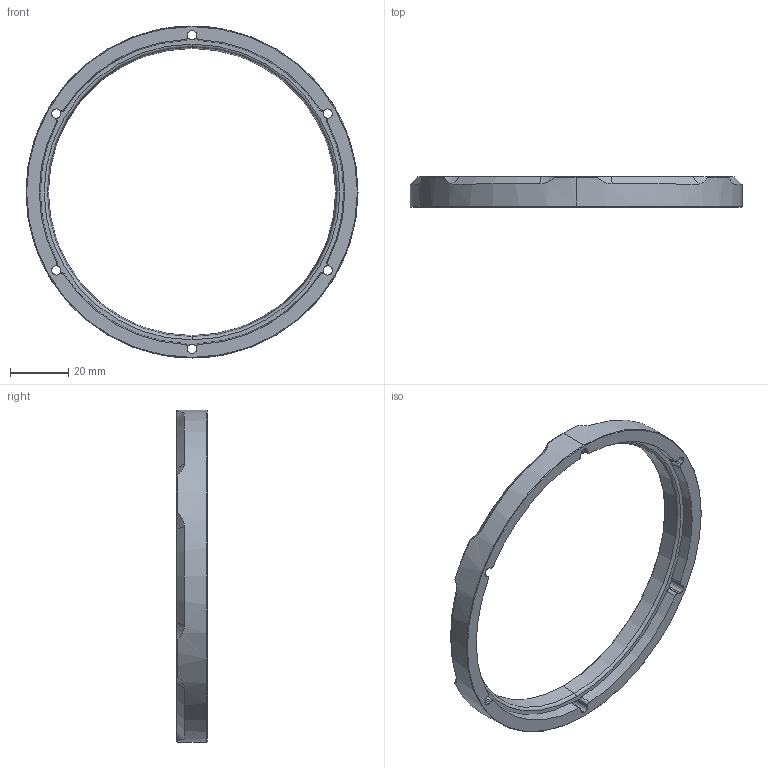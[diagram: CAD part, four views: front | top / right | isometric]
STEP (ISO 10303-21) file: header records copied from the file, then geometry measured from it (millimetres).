
FILE_DESCRIPTION (( 'STEP AP214' ), '1' );
FILE_NAME ('BR-106230_RevA.STEP', '2025-11-25T20:14:37', ( '' ), ( '' ), 'SwSTEP 2.0', 'SolidWorks 2024', '' );
FILE_SCHEMA (( 'AUTOMOTIVE_DESIGN' ));
Length unit declared in the file: millimetre
Products named in the file (1): BR-106230_RevA
Bounding box: 114.3 x 10.35 x 114.3 mm (x, y, z)
Volume: 21216.5 mm3; surface area: 11749.9 mm2
Topology: 1 solids, 1 shells, 80 faces, 242 edges, 159 vertices
Faces by surface type: cone 25, bspline 24, plane 15, cylinder 14, torus 2
Entity records: 3378 total; most frequent: CARTESIAN_POINT 1334, ORIENTED_EDGE 484, DIRECTION 361, EDGE_CURVE 242, VERTEX_POINT 159, AXIS2_PLACEMENT_3D 146, CIRCLE 89, EDGE_LOOP 89
